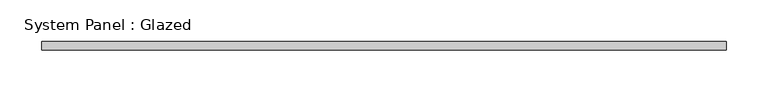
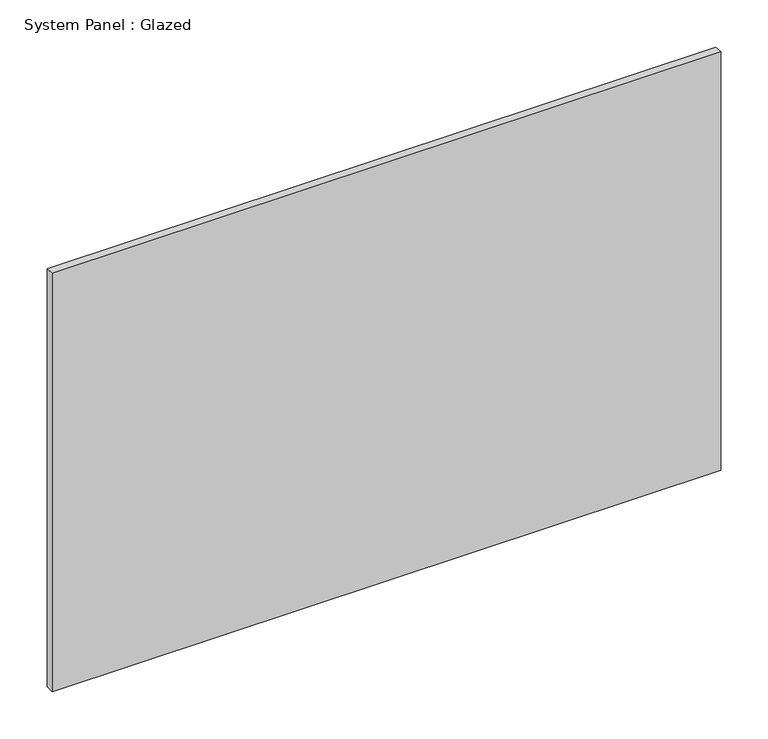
"""IFC4 building model written with IfcOpenShell, lengths in millimetres: plate geometry, System Panel : Glazed."""

from ifc_helpers import new_model, si_unit, origin, origin_with_axes, place, context, project, spatial, polyline, outline, extrude, source, transform, mapped, element, save


def system_panel_glazed_92b3d4ac(model_context):
    return source(origin(), model_context, "Body", "SweptSolid", [
        extrude(outline(polyline([(408.3333333, -5.0), (-408.3333333, -5.0), (-408.3333333, 5.0), (408.3333333, 5.0), (408.3333333, -5.0)])), origin_with_axes(), (0.0, 0.0, 1.0), 540.0),
    ])


if __name__ == "__main__":
    model = new_model("IFC4")
    model_context = context("Model", 3, world=origin())
    ifc_project = project(units=[si_unit("LENGTHUNIT", "METRE", prefix="MILLI")], contexts=[model_context])
    site = spatial("IfcSite", under=ifc_project)
    building = spatial("IfcBuilding", under=site)
    placement = place(None, origin())
    system_panel_glazed_shape = system_panel_glazed_92b3d4ac(model_context)
    element("IfcPlate", 1, ObjectType="System Panel : Glazed", at=placement, inside=building, context=model_context, shape_type="MappedRepresentation", body=[
        mapped(system_panel_glazed_shape, transform((0.0, 0.0, 0.0), x_axis=(1.0, 0.0, 0.0), y_axis=(0.0, 1.0, 0.0), z_axis=(0.0, 0.0, 1.0))),
    ])
    save(model, "model.ifc")
